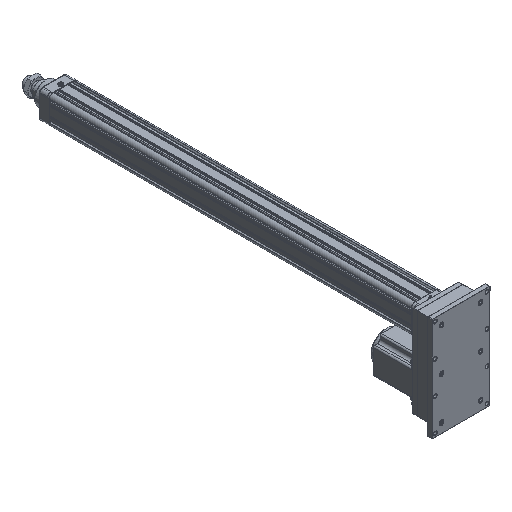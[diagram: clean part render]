
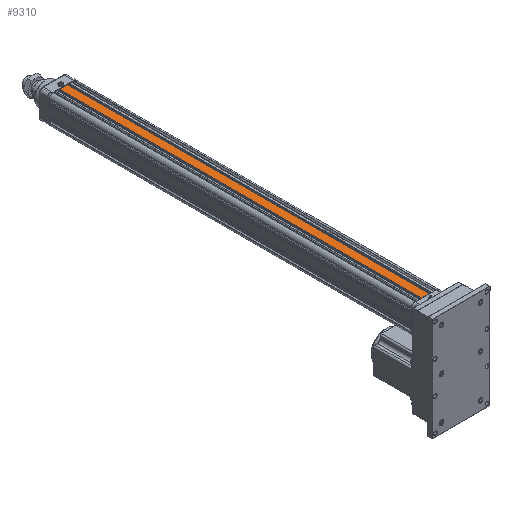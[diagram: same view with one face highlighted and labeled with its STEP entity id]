
A CAD part, isometric view. The second image highlights one B-rep face of the part: STEP entity #9310.
In plain terms, the highlighted planar face has unit normal (0, 0, 1).
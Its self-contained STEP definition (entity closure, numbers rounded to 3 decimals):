
#3629=DIRECTION('',(1.,0.,0.));
#3630=VECTOR('',#3629,27.8);
#3631=CARTESIAN_POINT('',(-13.9,-594.,46.5));
#3632=LINE('',#3631,#3630);
#4241=DIRECTION('',(1.,0.,0.));
#4242=VECTOR('',#4241,27.8);
#4243=CARTESIAN_POINT('',(-13.9,594.,46.5));
#4244=LINE('',#4243,#4242);
#5253=DIRECTION('',(0.,1.,0.));
#5254=VECTOR('',#5253,1188.);
#5255=CARTESIAN_POINT('',(-13.9,-594.,46.5));
#5256=LINE('',#5255,#5254);
#5257=DIRECTION('',(0.,1.,0.));
#5258=VECTOR('',#5257,1188.);
#5259=CARTESIAN_POINT('',(13.9,-594.,46.5));
#5260=LINE('',#5259,#5258);
#6169=CARTESIAN_POINT('',(-13.9,-594.,46.5));
#6171=VERTEX_POINT('',#6169);
#6185=CARTESIAN_POINT('',(13.9,-594.,46.5));
#6186=VERTEX_POINT('',#6185);
#6199=CARTESIAN_POINT('',(-13.9,594.,46.5));
#6201=VERTEX_POINT('',#6199);
#6215=CARTESIAN_POINT('',(13.9,594.,46.5));
#6216=VERTEX_POINT('',#6215);
#9297=CARTESIAN_POINT('',(-46.5,-594.,46.5));
#9298=DIRECTION('',(0.,0.,1.));
#9299=DIRECTION('',(1.,0.,0.));
#9300=AXIS2_PLACEMENT_3D('',#9297,#9298,#9299);
#9301=PLANE('',#9300);
#9303=ORIENTED_EDGE('',*,*,#9302,.T.);
#9304=ORIENTED_EDGE('',*,*,#7359,.T.);
#9306=ORIENTED_EDGE('',*,*,#9305,.F.);
#9307=ORIENTED_EDGE('',*,*,#6890,.F.);
#9308=EDGE_LOOP('',(#9303,#9304,#9306,#9307));
#9309=FACE_OUTER_BOUND('',#9308,.F.);
#9310=ADVANCED_FACE('',(#9309),#9301,.T.);
#6890=EDGE_CURVE('',#6171,#6186,#3632,.T.);
#7359=EDGE_CURVE('',#6201,#6216,#4244,.T.);
#9302=EDGE_CURVE('',#6171,#6201,#5256,.T.);
#9305=EDGE_CURVE('',#6186,#6216,#5260,.T.);
